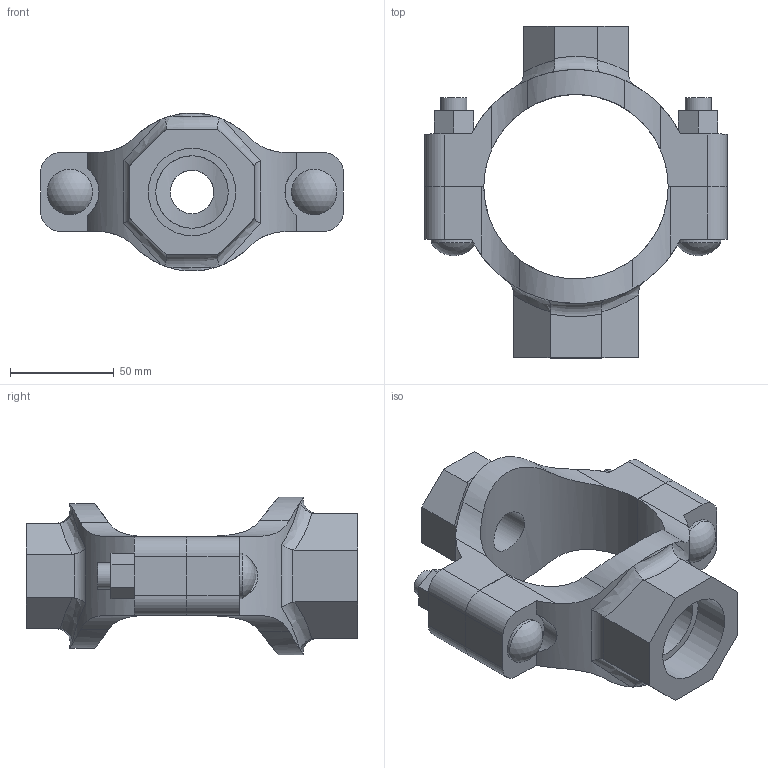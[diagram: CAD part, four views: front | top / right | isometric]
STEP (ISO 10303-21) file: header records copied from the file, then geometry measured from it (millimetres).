
FILE_DESCRIPTION(/* description */ ('VIC MECH-T BRANCH OUTLET CROSS STYLE 920N (THD)','CAx-IF Rec.Pracs.---Representation and Presentation of Product Manufacturing Information (PMI)---4.0---2014-10-13'),/* implementation_level */ '2;1');
FILE_NAME(/* name */ 'C:\Users\Vjadhav\AppData\Roaming\Autodesk\ApplicationPlugins\Back Up\Victaulic_IPS_Mechanical-Cross Outlet_Style 920N (FPT)\Victaulic_IPS_Mechanical-Cross Outlet_03.0x0.75x01.25 (80x20x32).stp',/* time_stamp */ '2020-08-06T18:57:21+05:00',/* author */ ('Vjadhav'),/* organization */ ('Victaulic'),/* preprocessor_version */ 'ST-DEVELOPER v17.2',/* originating_system */ 'Autodesk Inventor 2019',/* authorisation */ '');
FILE_SCHEMA (('AP242_MANAGED_MODEL_BASED_3D_ENGINEERING_MIM_LF { 1 0 10303 442 1 1 4 }'));
Length unit declared in the file: inch
Products named in the file (3): 920NT-03.0x0.75x01.25; 920NT-03.0x0.75; 920NT-03.0x01.25
Assembly tree (2 placements, depth 2):
  920NT-03.0x0.75x01.25
    920NT-03.0x0.75
    920NT-03.0x01.25
Bounding box: 146.05 x 160.02 x 76.2 mm (x, y, z)
Volume: 329578.3 mm3; surface area: 76002 mm2
Topology: 2 solids, 2 shells, 135 faces, 362 edges, 244 vertices
Faces by surface type: plane 68, cylinder 53, bspline 8, torus 4, sphere 2
Full cylindrical faces by diameter (mm): 12.7 x4, 20.93 x1, 21.982 x2, 26.67 x1, 34.925 x1, 42.164 x1
Entity records: 5255 total; most frequent: CARTESIAN_POINT 1664, ORIENTED_EDGE 724, DIRECTION 654, EDGE_CURVE 362, VERTEX_POINT 244, AXIS2_PLACEMENT_3D 234, LINE 186, VECTOR 186
